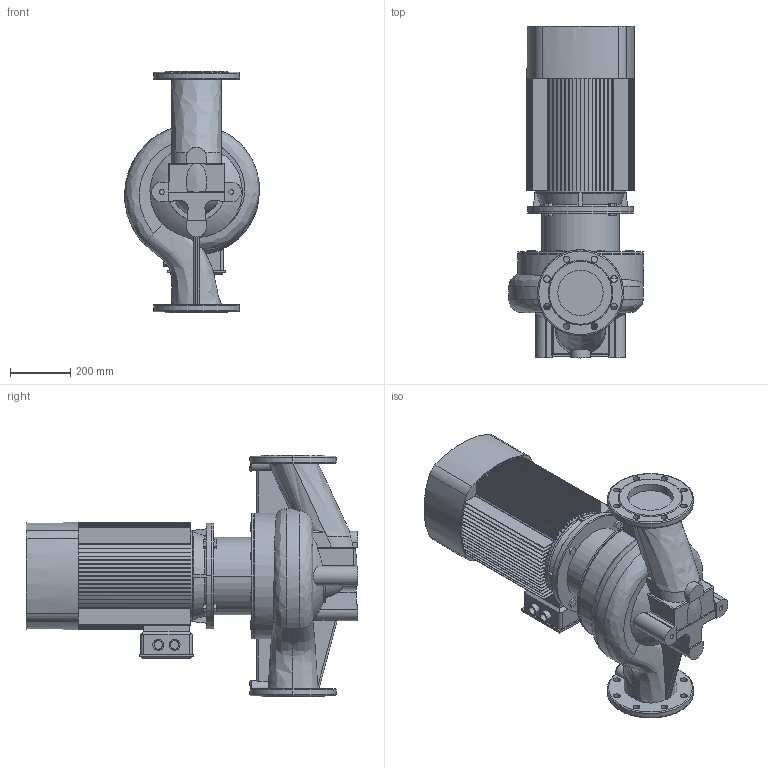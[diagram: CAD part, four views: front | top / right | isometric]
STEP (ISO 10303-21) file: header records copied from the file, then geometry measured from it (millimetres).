
FILE_DESCRIPTION (( 'STEP AP203' ), '1' );
FILE_NAME ('TD150-25_4.STEP', '2022-05-02T17:24:55', ( '' ), ( '' ), 'SwSTEP 2.0', 'SolidWorks 2019', '' );
FILE_SCHEMA (( 'CONFIG_CONTROL_DESIGN' ));
Length unit declared in the file: millimetre
Products named in the file (4): Fon_150_TD150-25_4; ED_B5_YE2-180L-4 (22); TD150-25_4; Pr_ch 150_TD150-25_4
Assembly tree (3 placements, depth 2):
  TD150-25_4
    Pr_ch 150_TD150-25_4
    Fon_150_TD150-25_4
    ED_B5_YE2-180L-4 (22)
Bounding box: 446.42 x 1099 x 800 mm (x, y, z)
Volume: 102354005.1 mm3; surface area: 4354350.5 mm2
Topology: 5 solids, 7 shells, 728 faces, 1999 edges, 1322 vertices
Faces by surface type: plane 497, cylinder 158, torus 29, bspline 25, cone 17, sphere 2
Entity records: 31478 total; most frequent: CARTESIAN_POINT 12262, ORIENTED_EDGE 3994, DIRECTION 3898, EDGE_CURVE 1997, AXIS2_PLACEMENT_3D 1352, VERTEX_POINT 1322, VECTOR 1194, LINE 1194
